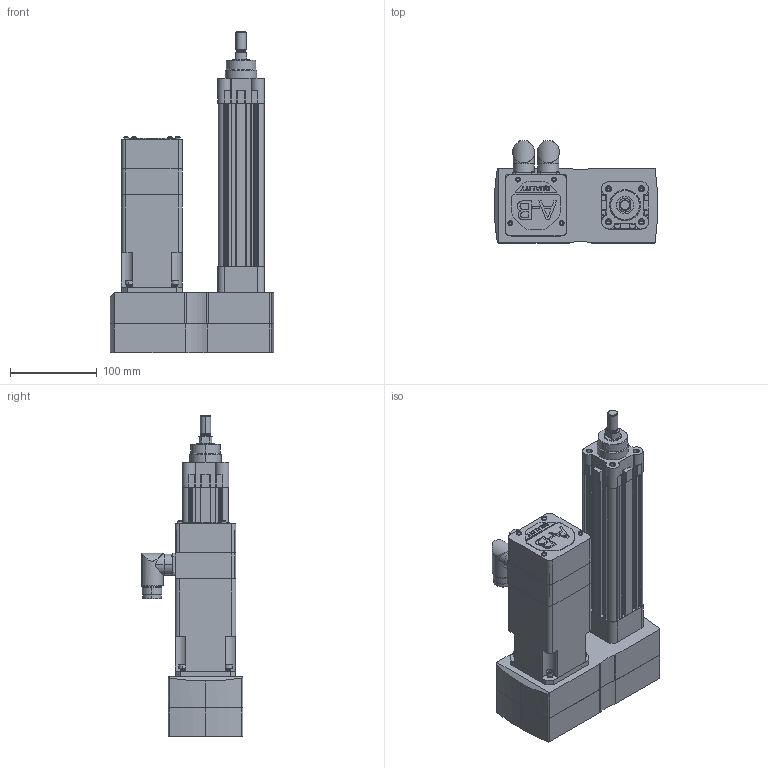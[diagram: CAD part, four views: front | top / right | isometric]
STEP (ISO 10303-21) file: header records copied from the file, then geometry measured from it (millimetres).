
FILE_DESCRIPTION (( 'STEP AP214' ), '1' );
FILE_NAME ('Rockwell Automation-$PARTNUMBER.STEP', '2013-08-20T07:26:26', ( 'Windows User' ), ( '' ), 'SwSTEP 2.0', 'SolidWorks 2013', '' );
FILE_SCHEMA (( 'AUTOMOTIVE_DESIGN' ));
Length unit declared in the file: millimetre
Products named in the file (16): Rockwell Automation-$PARTNUMBER_Rockwell Automation-MPAR-X2100F-V4D_MPL-x220x-xJ44AA_MPL-15xx-Power Connector; Rockwell Automation-$PARTNUMBER_Rockwell Automation-MPAR-X2100F-V4D_MPL-x220x-xJ44AA_MPL-2xx-Shaft-Key_220-SHAFT-KEYED-BRAKE; Rockwell Automation-$PARTNUMBER_Rockwell Automation-MPAR-X2100F-V4D_MPL-x220x-xJ44AA_MPL-2xx-Body_220-BRAKE; Rockwell Automation-$PARTNUMBER_Rockwell Automation-MPAR-X2100F-V4D_627502; Rockwell Automation-$PARTNUMBER_Rockwell Automation-MPAR-X2100F-V4D_627502_1212826_S_ASM; Rockwell Automation-$PARTNUMBER_Rockwell Automation-MPAR-X2100F-V4D_627502_1212372; Rockwell Automation-$PARTNUMBER_Rockwell Automation-MPAR-X2100F-V4D_627502_200129_3; Rockwell Automation-$PARTNUMBER_Rockwell Automation-MPAR-X2100F-V4D_627502_200672_1; Rockwell Automation-$PARTNUMBER_Rockwell Automation-MPAR-X2100F-V4D_627502_PRT0002; Rockwell Automation-$PARTNUMBER_Rockwell Automation-MPAR-X2100F-V4D_627502_1190018; Rockwell Automation-$PARTNUMBER_Rockwell Automation-MPAR-X2100F-V4D_MPAR-x2100x; Rockwell Automation-$PARTNUMBER_Rockwell Automation-MPAR-X2100F-V4D_2-543131; Rockwell Automation-$PARTNUMBER_Rockwell Automation-MPAR-X2100F-V4D_1-543131; Rockwell Automation-$PARTNUMBER; Rockwell Automation-$PARTNUMBER_Rockwell Automation-MPAR-X2100F-V4D_MPL-x220F-V-X210_MPL-x220x-xJ44AA; Rockwell Automation-$PARTNUMBER_Rockwell Automation-MPAR-X2100F-V4D_MPL-x220x-xJ44AA_MPL-15xx-Feedback Connector
Assembly tree (25 placements, depth 4):
  Rockwell Automation-$PARTNUMBER
    Rockwell Automation-$PARTNUMBER_Rockwell Automation-MPAR-X2100F-V4D_MPAR-x2100x
      Rockwell Automation-$PARTNUMBER_Rockwell Automation-MPAR-X2100F-V4D_1-543131
      Rockwell Automation-$PARTNUMBER_Rockwell Automation-MPAR-X2100F-V4D_2-543131
    Rockwell Automation-$PARTNUMBER_Rockwell Automation-MPAR-X2100F-V4D_627502
      Rockwell Automation-$PARTNUMBER_Rockwell Automation-MPAR-X2100F-V4D_627502_1212826_S_ASM
        Rockwell Automation-$PARTNUMBER_Rockwell Automation-MPAR-X2100F-V4D_627502_1190018
        Rockwell Automation-$PARTNUMBER_Rockwell Automation-MPAR-X2100F-V4D_627502_PRT0002  x4
        Rockwell Automation-$PARTNUMBER_Rockwell Automation-MPAR-X2100F-V4D_627502_200672_1  x4
        Rockwell Automation-$PARTNUMBER_Rockwell Automation-MPAR-X2100F-V4D_627502_200129_3  x5
        Rockwell Automation-$PARTNUMBER_Rockwell Automation-MPAR-X2100F-V4D_627502_1212372
    Rockwell Automation-$PARTNUMBER_Rockwell Automation-MPAR-X2100F-V4D_MPL-x220F-V-X210_MPL-x220x-xJ44AA
      Rockwell Automation-$PARTNUMBER_Rockwell Automation-MPAR-X2100F-V4D_MPL-x220x-xJ44AA_MPL-2xx-Body_220-BRAKE
      Rockwell Automation-$PARTNUMBER_Rockwell Automation-MPAR-X2100F-V4D_MPL-x220x-xJ44AA_MPL-2xx-Shaft-Key_220-SHAFT-KEYED-BRAKE
      Rockwell Automation-$PARTNUMBER_Rockwell Automation-MPAR-X2100F-V4D_MPL-x220x-xJ44AA_MPL-15xx-Power Connector
      Rockwell Automation-$PARTNUMBER_Rockwell Automation-MPAR-X2100F-V4D_MPL-x220x-xJ44AA_MPL-15xx-Feedback Connector
Bounding box: 188.12 x 117.09 x 369.5 mm (x, y, z)
Volume: 1879574.5 mm3; surface area: 388375.4 mm2
Topology: 25 solids, 25 shells, 1659 faces, 4024 edges, 2538 vertices
Faces by surface type: plane 667, cylinder 576, cone 254, bspline 114, torus 48
Entity records: 44514 total; most frequent: CARTESIAN_POINT 10406, DIRECTION 7244, ORIENTED_EDGE 6664, EDGE_CURVE 3332, AXIS2_PLACEMENT_3D 2719, VERTEX_POINT 2118, VECTOR 1806, LINE 1806
